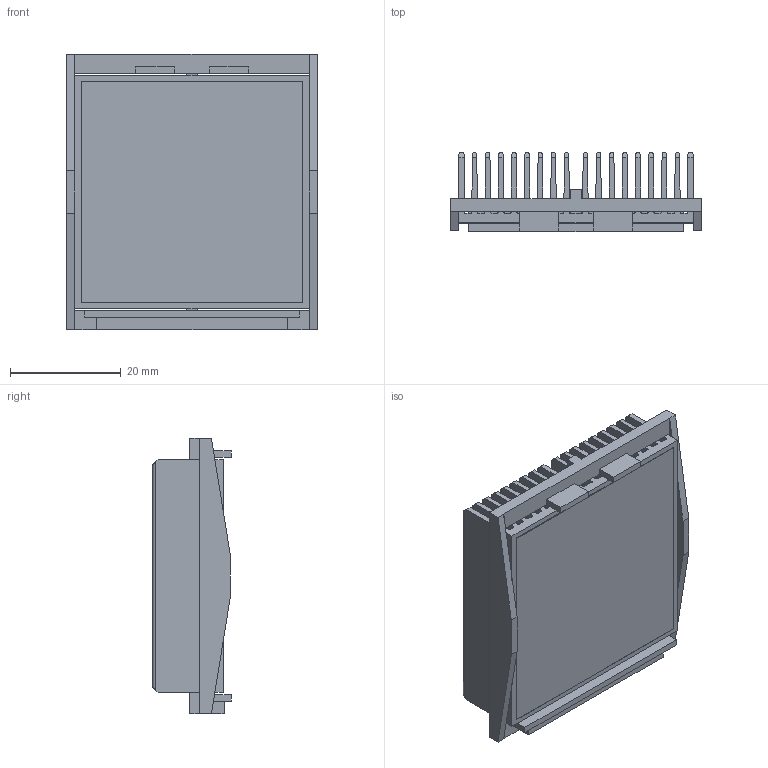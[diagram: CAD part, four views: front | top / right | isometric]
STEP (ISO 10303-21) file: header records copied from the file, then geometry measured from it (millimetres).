
FILE_DESCRIPTION (( 'STEP AP214' ), '1' );
FILE_NAME ('INL42.5001-13-1.7BU.STEP', '2023-03-01T18:26:43', ( '' ), ( '' ), 'SwSTEP 2.0', 'SolidWorks 2020', '' );
FILE_SCHEMA (( 'AUTOMOTIVE_DESIGN' ));
Length unit declared in the file: millimetre
Products named in the file (1): INL42.5001-13-1.7BU
Bounding box: 45.2 x 14.2 x 49.6 mm (x, y, z)
Volume: 12625.1 mm3; surface area: 26302.3 mm2
Topology: 3 solids, 3 shells, 198 faces, 578 edges, 384 vertices
Faces by surface type: plane 146, cylinder 52
Entity records: 8712 total; most frequent: CARTESIAN_POINT 1269, ORIENTED_EDGE 1156, DIRECTION 1008, EDGE_CURVE 578, VECTOR 474, LINE 474, VERTEX_POINT 384, AXIS2_PLACEMENT_3D 267
